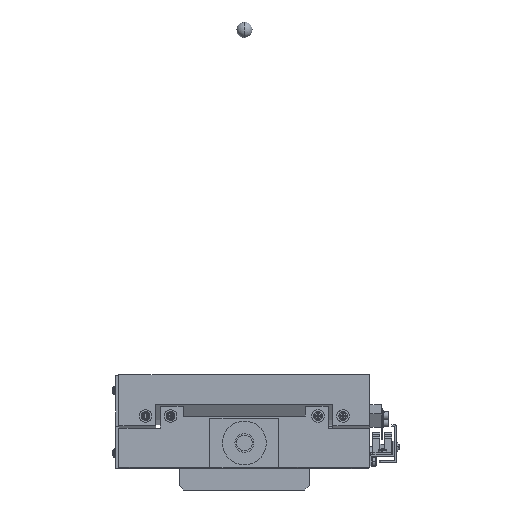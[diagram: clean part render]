
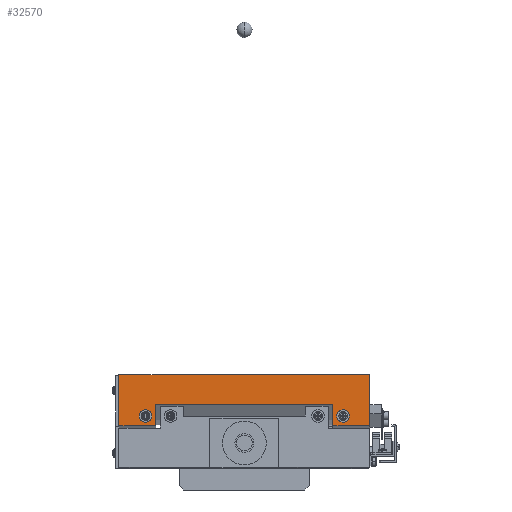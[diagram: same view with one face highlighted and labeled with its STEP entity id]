
A CAD part, left-side view. The second image highlights one B-rep face of the part: STEP entity #32570.
In plain terms, the highlighted planar face has unit normal (-1, 0, 0).
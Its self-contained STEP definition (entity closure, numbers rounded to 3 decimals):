
#503 = CARTESIAN_POINT ( 'NONE',  ( -1611.08, -220.681, -262.621 ) ) ;
#1385 = DIRECTION ( 'NONE',  ( 0., 1., 0. ) ) ;
#1519 = FACE_BOUND ( 'NONE', #42909, .T. ) ;
#2574 = CARTESIAN_POINT ( 'NONE',  ( -1611.08, -216.681, -262.621 ) ) ;
#3431 = CARTESIAN_POINT ( 'NONE',  ( -1611.08, -340.181, -255.286 ) ) ;
#5202 = AXIS2_PLACEMENT_3D ( 'NONE', #11862, #71724, #38962 ) ;
#5494 = EDGE_CURVE ( 'NONE', #38118, #34105, #33717, .T. ) ;
#6213 = EDGE_CURVE ( 'NONE', #68317, #60421, #9646, .T. ) ;
#6715 = CARTESIAN_POINT ( 'NONE',  ( -1611.08, -350.681, -262.621 ) ) ;
#7189 = CARTESIAN_POINT ( 'NONE',  ( -1611.08, -220.681, -262.621 ) ) ;
#9646 = LINE ( 'NONE', #13123, #17996 ) ;
#9928 = ORIENTED_EDGE ( 'NONE', *, *, #76796, .F. ) ;
#11047 = AXIS2_PLACEMENT_3D ( 'NONE', #17613, #71364, #23753 ) ;
#11862 = CARTESIAN_POINT ( 'NONE',  ( -1611.08, -212.681, -268.957 ) ) ;
#13123 = CARTESIAN_POINT ( 'NONE',  ( -1611.08, -340.181, -255.286 ) ) ;
#14763 = VERTEX_POINT ( 'NONE', #66068 ) ;
#14834 = CIRCLE ( 'NONE', #74228, 4. ) ;
#15608 = CARTESIAN_POINT ( 'NONE',  ( -1611.08, -363.681, -268.957 ) ) ;
#16559 = DIRECTION ( 'NONE',  ( -1., 0., 0. ) ) ;
#16728 = EDGE_LOOP ( 'NONE', ( #70048, #69288 ) ) ;
#17613 = CARTESIAN_POINT ( 'NONE',  ( -1611.08, -346.681, -262.621 ) ) ;
#17624 = CARTESIAN_POINT ( 'NONE',  ( -1611.08, -212.681, -268.957 ) ) ;
#17709 = CIRCLE ( 'NONE', #81368, 4. ) ;
#17996 = VECTOR ( 'NONE', #41841, 1000. ) ;
#18199 = VECTOR ( 'NONE', #66627, 1000. ) ;
#18603 = LINE ( 'NONE', #71508, #34259 ) ;
#18663 = VERTEX_POINT ( 'NONE', #54442 ) ;
#18736 = VERTEX_POINT ( 'NONE', #15608 ) ;
#19889 = CARTESIAN_POINT ( 'NONE',  ( -1611.08, -203.681, -268.957 ) ) ;
#20199 = VERTEX_POINT ( 'NONE', #21183 ) ;
#20294 = LINE ( 'NONE', #19889, #18199 ) ;
#20604 = VECTOR ( 'NONE', #42965, 1000. ) ;
#21183 = CARTESIAN_POINT ( 'NONE',  ( -1611.08, -340.181, -268.957 ) ) ;
#23753 = DIRECTION ( 'NONE',  ( 0., 1., 0. ) ) ;
#24901 = ORIENTED_EDGE ( 'NONE', *, *, #6213, .F. ) ;
#26708 = ORIENTED_EDGE ( 'NONE', *, *, #73406, .T. ) ;
#27243 = EDGE_CURVE ( 'NONE', #68269, #14763, #14834, .T. ) ;
#28113 = CARTESIAN_POINT ( 'NONE',  ( -1611.08, -227.181, -268.957 ) ) ;
#29068 = EDGE_CURVE ( 'NONE', #38118, #60421, #62553, .T. ) ;
#31308 = EDGE_CURVE ( 'NONE', #31922, #18663, #40142, .T. ) ;
#31743 = EDGE_LOOP ( 'NONE', ( #9928, #26708, #45145, #58995, #71279, #83490, #65883, #24901 ) ) ;
#31922 = VERTEX_POINT ( 'NONE', #48713 ) ;
#32131 = VERTEX_POINT ( 'NONE', #6715 ) ;
#32441 = AXIS2_PLACEMENT_3D ( 'NONE', #43681, #16559, #36967 ) ;
#32570 = ADVANCED_FACE ( 'NONE', ( #58898, #79884, #1519 ), #85428, .T. ) ;
#32703 = VERTEX_POINT ( 'NONE', #54727 ) ;
#33717 = LINE ( 'NONE', #17624, #51488 ) ;
#33724 = CARTESIAN_POINT ( 'NONE',  ( -1611.08, -227.181, -255.286 ) ) ;
#34105 = VERTEX_POINT ( 'NONE', #56843 ) ;
#34259 = VECTOR ( 'NONE', #51607, 1000. ) ;
#36551 = CARTESIAN_POINT ( 'NONE',  ( -1611.08, -354.681, -268.957 ) ) ;
#36967 = DIRECTION ( 'NONE',  ( 0., 1., 0. ) ) ;
#37079 = VECTOR ( 'NONE', #74909, 1000. ) ;
#38040 = DIRECTION ( 'NONE',  ( 0., 1., 0. ) ) ;
#38118 = VERTEX_POINT ( 'NONE', #28113 ) ;
#38962 = DIRECTION ( 'NONE',  ( 0., 0., 1. ) ) ;
#39181 = ORIENTED_EDGE ( 'NONE', *, *, #82330, .F. ) ;
#39484 = DIRECTION ( 'NONE',  ( -1., 0., 0. ) ) ;
#40142 = LINE ( 'NONE', #75471, #37079 ) ;
#41841 = DIRECTION ( 'NONE',  ( 0., 1., 0. ) ) ;
#42909 = EDGE_LOOP ( 'NONE', ( #69563, #39181 ) ) ;
#42965 = DIRECTION ( 'NONE',  ( 0., -1., 0. ) ) ;
#43427 = EDGE_CURVE ( 'NONE', #34105, #18663, #20294, .T. ) ;
#43681 = CARTESIAN_POINT ( 'NONE',  ( -1611.08, -346.681, -262.621 ) ) ;
#45145 = ORIENTED_EDGE ( 'NONE', *, *, #54621, .T. ) ;
#48713 = CARTESIAN_POINT ( 'NONE',  ( -1611.08, -363.681, -236.321 ) ) ;
#50173 = CARTESIAN_POINT ( 'NONE',  ( -1611.08, -227.181, -256.34 ) ) ;
#50421 = CIRCLE ( 'NONE', #11047, 4. ) ;
#50731 = EDGE_CURVE ( 'NONE', #14763, #68269, #17709, .T. ) ;
#51488 = VECTOR ( 'NONE', #38040, 1000. ) ;
#51607 = DIRECTION ( 'NONE',  ( 0., 0., 1. ) ) ;
#52949 = DIRECTION ( 'NONE',  ( 0., 0., 1. ) ) ;
#54442 = CARTESIAN_POINT ( 'NONE',  ( -1611.08, -203.681, -236.321 ) ) ;
#54621 = EDGE_CURVE ( 'NONE', #18736, #31922, #18603, .T. ) ;
#54727 = CARTESIAN_POINT ( 'NONE',  ( -1611.08, -342.681, -262.621 ) ) ;
#56843 = CARTESIAN_POINT ( 'NONE',  ( -1611.08, -203.681, -268.957 ) ) ;
#57431 = EDGE_CURVE ( 'NONE', #32703, #32131, #70492, .T. ) ;
#58898 = FACE_OUTER_BOUND ( 'NONE', #31743, .T. ) ;
#58995 = ORIENTED_EDGE ( 'NONE', *, *, #31308, .T. ) ;
#60421 = VERTEX_POINT ( 'NONE', #33724 ) ;
#60462 = VECTOR ( 'NONE', #76223, 1000. ) ;
#62553 = LINE ( 'NONE', #50173, #60462 ) ;
#63430 = LINE ( 'NONE', #36551, #20604 ) ;
#65883 = ORIENTED_EDGE ( 'NONE', *, *, #29068, .T. ) ;
#66068 = CARTESIAN_POINT ( 'NONE',  ( -1611.08, -224.681, -262.621 ) ) ;
#66627 = DIRECTION ( 'NONE',  ( 0., 0., 1. ) ) ;
#66726 = DIRECTION ( 'NONE',  ( -1., 0., 0. ) ) ;
#68269 = VERTEX_POINT ( 'NONE', #2574 ) ;
#68317 = VERTEX_POINT ( 'NONE', #3431 ) ;
#69090 = VECTOR ( 'NONE', #52949, 1000. ) ;
#69288 = ORIENTED_EDGE ( 'NONE', *, *, #50731, .F. ) ;
#69563 = ORIENTED_EDGE ( 'NONE', *, *, #57431, .F. ) ;
#70048 = ORIENTED_EDGE ( 'NONE', *, *, #27243, .F. ) ;
#70492 = CIRCLE ( 'NONE', #32441, 4. ) ;
#71279 = ORIENTED_EDGE ( 'NONE', *, *, #43427, .F. ) ;
#71364 = DIRECTION ( 'NONE',  ( -1., 0., 0. ) ) ;
#71508 = CARTESIAN_POINT ( 'NONE',  ( -1611.08, -363.681, -268.957 ) ) ;
#71724 = DIRECTION ( 'NONE',  ( -1., 0., 0. ) ) ;
#73406 = EDGE_CURVE ( 'NONE', #20199, #18736, #63430, .T. ) ;
#74228 = AXIS2_PLACEMENT_3D ( 'NONE', #7189, #66726, #1385 ) ;
#74909 = DIRECTION ( 'NONE',  ( 0., 1., 0. ) ) ;
#75471 = CARTESIAN_POINT ( 'NONE',  ( -1611.08, -212.681, -236.321 ) ) ;
#76223 = DIRECTION ( 'NONE',  ( 0., 0., 1. ) ) ;
#76796 = EDGE_CURVE ( 'NONE', #20199, #68317, #80588, .T. ) ;
#79576 = CARTESIAN_POINT ( 'NONE',  ( -1611.08, -340.181, -256.34 ) ) ;
#79884 = FACE_BOUND ( 'NONE', #16728, .T. ) ;
#80588 = LINE ( 'NONE', #79576, #69090 ) ;
#81368 = AXIS2_PLACEMENT_3D ( 'NONE', #503, #39484, #86535 ) ;
#82330 = EDGE_CURVE ( 'NONE', #32131, #32703, #50421, .T. ) ;
#83490 = ORIENTED_EDGE ( 'NONE', *, *, #5494, .F. ) ;
#85428 = PLANE ( 'NONE',  #5202 ) ;
#86535 = DIRECTION ( 'NONE',  ( 0., 1., 0. ) ) ;
